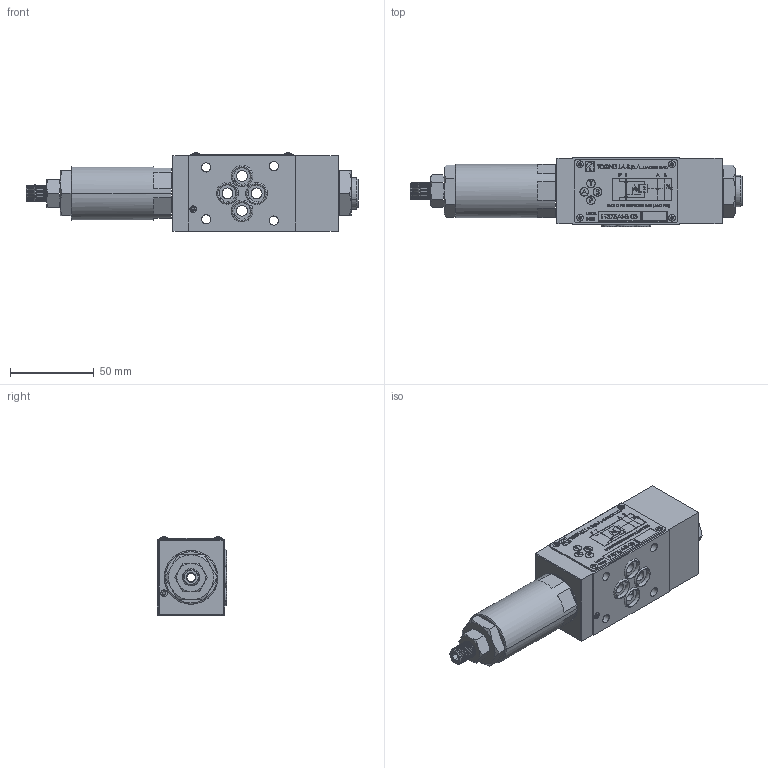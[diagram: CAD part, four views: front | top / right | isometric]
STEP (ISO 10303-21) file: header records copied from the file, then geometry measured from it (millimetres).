
FILE_DESCRIPTION (( 'STEP AP214' ), '1' );
FILE_NAME ('ASSIEME 375-4-B-03.STEP', '2019-12-03T13:54:00', ( '' ), ( '' ), 'SwSTEP 2.0', 'SolidWorks 2018', '' );
FILE_SCHEMA (( 'AUTOMOTIVE_DESIGN' ));
Length unit declared in the file: millimetre
Products named in the file (1): ASSIEME 375-4-B-03
Bounding box: 198.41 x 41.3 x 46.66 mm (x, y, z)
Surface area: 48240.4 mm2 (no closed solid volume)
Topology: 0 solids, 60 shells, 747 faces, 3641 edges, 2856 vertices
Faces by surface type: plane 393, cone 127, bspline 111, cylinder 102, sphere 8, torus 6
Entity records: 57076 total; most frequent: CARTESIAN_POINT 22202, ORIENTED_EDGE 4933, DIRECTION 4626, EDGE_CURVE 3641, VERTEX_POINT 2856, VECTOR 2374, LINE 2374, AXIS2_PLACEMENT_3D 1126
